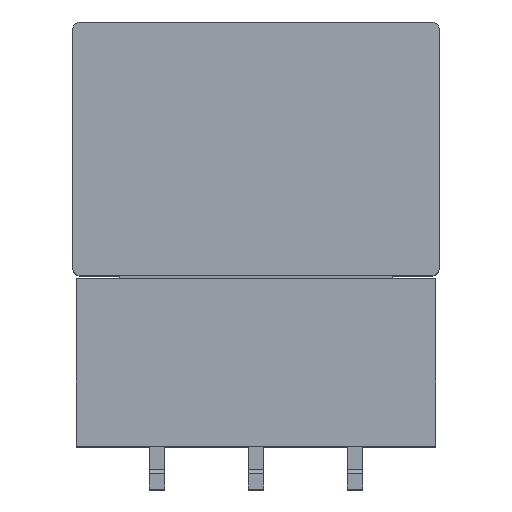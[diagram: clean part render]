
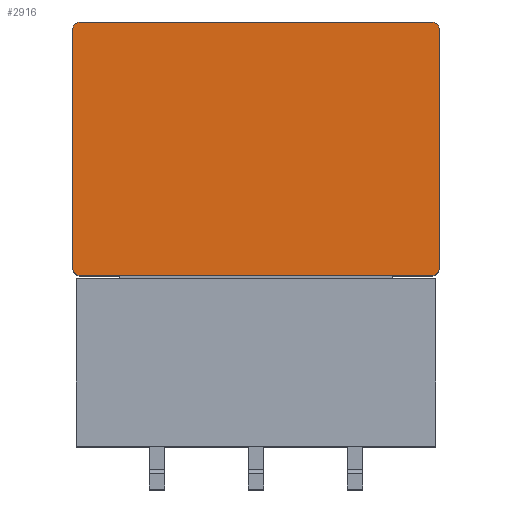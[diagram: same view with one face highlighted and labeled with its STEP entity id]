
A CAD part, top view. The second image highlights one B-rep face of the part: STEP entity #2916.
In plain terms, the highlighted planar face has unit normal (0, 0, 1) as drawn and (0, 0, -1) by its records, which use the part's own axes.
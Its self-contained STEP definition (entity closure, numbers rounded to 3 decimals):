
#37 = LINE ( 'NONE', #834, #3256 ) ;
#120 = CARTESIAN_POINT ( 'NONE',  ( -7.208, 5.446, 0. ) ) ;
#125 = AXIS2_PLACEMENT_3D ( 'NONE', #1327, #1165, #3943 ) ;
#144 = ORIENTED_EDGE ( 'NONE', *, *, #4023, .F. ) ;
#362 = DIRECTION ( 'NONE',  ( -1., 0., 0. ) ) ;
#368 = PLANE ( 'NONE',  #3490 ) ;
#398 = VECTOR ( 'NONE', #993, 1000. ) ;
#437 = FACE_OUTER_BOUND ( 'NONE', #726, .T. ) ;
#442 = DIRECTION ( 'NONE',  ( 1., 0., 0. ) ) ;
#547 = EDGE_CURVE ( 'NONE', #1611, #3225, #1818, .T. ) ;
#599 = DIRECTION ( 'NONE',  ( 1., 0., 0. ) ) ;
#622 = EDGE_CURVE ( 'NONE', #2587, #1273, #2535, .T. ) ;
#624 = CIRCLE ( 'NONE', #1419, 0.2 ) ;
#656 = EDGE_CURVE ( 'NONE', #1611, #3572, #3401, .T. ) ;
#726 = EDGE_LOOP ( 'NONE', ( #3695, #3029, #144, #1845, #4174, #3205, #4012, #3822 ) ) ;
#767 = CARTESIAN_POINT ( 'NONE',  ( 2.192, -0.854, 0. ) ) ;
#822 = EDGE_CURVE ( 'NONE', #1252, #3089, #2030, .T. ) ;
#834 = CARTESIAN_POINT ( 'NONE',  ( -7.208, 5.446, 0. ) ) ;
#993 = DIRECTION ( 'NONE',  ( 0., -1., 0. ) ) ;
#1052 = CARTESIAN_POINT ( 'NONE',  ( -7.008, -0.854, 0. ) ) ;
#1149 = AXIS2_PLACEMENT_3D ( 'NONE', #1052, #3300, #599 ) ;
#1165 = DIRECTION ( 'NONE',  ( 0., 0., -1. ) ) ;
#1181 = CARTESIAN_POINT ( 'NONE',  ( -7.008, 5.446, 0. ) ) ;
#1238 = DIRECTION ( 'NONE',  ( 1., 0., 0. ) ) ;
#1252 = VERTEX_POINT ( 'NONE', #3657 ) ;
#1273 = VERTEX_POINT ( 'NONE', #1181 ) ;
#1327 = CARTESIAN_POINT ( 'NONE',  ( -7.008, 5.246, 0. ) ) ;
#1349 = CARTESIAN_POINT ( 'NONE',  ( 1.992, -0.854, 0. ) ) ;
#1419 = AXIS2_PLACEMENT_3D ( 'NONE', #1349, #2189, #442 ) ;
#1435 = CARTESIAN_POINT ( 'NONE',  ( -7.008, -1.054, 0. ) ) ;
#1543 = CARTESIAN_POINT ( 'NONE',  ( -7.208, -0.854, 0. ) ) ;
#1569 = LINE ( 'NONE', #120, #398 ) ;
#1611 = VERTEX_POINT ( 'NONE', #1435 ) ;
#1680 = VERTEX_POINT ( 'NONE', #767 ) ;
#1718 = CARTESIAN_POINT ( 'NONE',  ( 2.192, 5.446, 0. ) ) ;
#1725 = DIRECTION ( 'NONE',  ( 0., 0., -1. ) ) ;
#1777 = EDGE_CURVE ( 'NONE', #1680, #3089, #2608, .T. ) ;
#1818 = CIRCLE ( 'NONE', #1149, 0.2 ) ;
#1845 = ORIENTED_EDGE ( 'NONE', *, *, #622, .T. ) ;
#2030 = CIRCLE ( 'NONE', #3303, 0.2 ) ;
#2189 = DIRECTION ( 'NONE',  ( 0., 0., -1. ) ) ;
#2402 = EDGE_CURVE ( 'NONE', #1252, #1273, #37, .T. ) ;
#2444 = CARTESIAN_POINT ( 'NONE',  ( -7.208, 5.246, 0. ) ) ;
#2535 = CIRCLE ( 'NONE', #125, 0.2 ) ;
#2552 = EDGE_CURVE ( 'NONE', #1680, #3572, #624, .T. ) ;
#2587 = VERTEX_POINT ( 'NONE', #2444 ) ;
#2608 = LINE ( 'NONE', #1718, #3605 ) ;
#2665 = DIRECTION ( 'NONE',  ( 1., 0., 0. ) ) ;
#2833 = CARTESIAN_POINT ( 'NONE',  ( 2.192, 5.246, 0. ) ) ;
#2916 = ADVANCED_FACE ( 'NONE', ( #437 ), #368, .F. ) ;
#2961 = CARTESIAN_POINT ( 'NONE',  ( -7.208, -1.054, 0. ) ) ;
#3029 = ORIENTED_EDGE ( 'NONE', *, *, #547, .T. ) ;
#3043 = VECTOR ( 'NONE', #2665, 1000. ) ;
#3089 = VERTEX_POINT ( 'NONE', #2833 ) ;
#3153 = DIRECTION ( 'NONE',  ( 0., 0., 1. ) ) ;
#3205 = ORIENTED_EDGE ( 'NONE', *, *, #822, .T. ) ;
#3225 = VERTEX_POINT ( 'NONE', #1543 ) ;
#3256 = VECTOR ( 'NONE', #362, 1000. ) ;
#3300 = DIRECTION ( 'NONE',  ( 0., 0., -1. ) ) ;
#3303 = AXIS2_PLACEMENT_3D ( 'NONE', #3978, #1725, #3588 ) ;
#3361 = CARTESIAN_POINT ( 'NONE',  ( 0., 0., 0. ) ) ;
#3401 = LINE ( 'NONE', #2961, #3043 ) ;
#3490 = AXIS2_PLACEMENT_3D ( 'NONE', #3361, #3153, #1238 ) ;
#3516 = CARTESIAN_POINT ( 'NONE',  ( 1.992, -1.054, 0. ) ) ;
#3572 = VERTEX_POINT ( 'NONE', #3516 ) ;
#3588 = DIRECTION ( 'NONE',  ( 1., 0., 0. ) ) ;
#3605 = VECTOR ( 'NONE', #3645, 1000. ) ;
#3645 = DIRECTION ( 'NONE',  ( 0., 1., 0. ) ) ;
#3657 = CARTESIAN_POINT ( 'NONE',  ( 1.992, 5.446, 0. ) ) ;
#3695 = ORIENTED_EDGE ( 'NONE', *, *, #656, .F. ) ;
#3822 = ORIENTED_EDGE ( 'NONE', *, *, #2552, .T. ) ;
#3943 = DIRECTION ( 'NONE',  ( 1., 0., 0. ) ) ;
#3978 = CARTESIAN_POINT ( 'NONE',  ( 1.992, 5.246, 0. ) ) ;
#4012 = ORIENTED_EDGE ( 'NONE', *, *, #1777, .F. ) ;
#4023 = EDGE_CURVE ( 'NONE', #2587, #3225, #1569, .T. ) ;
#4174 = ORIENTED_EDGE ( 'NONE', *, *, #2402, .F. ) ;
